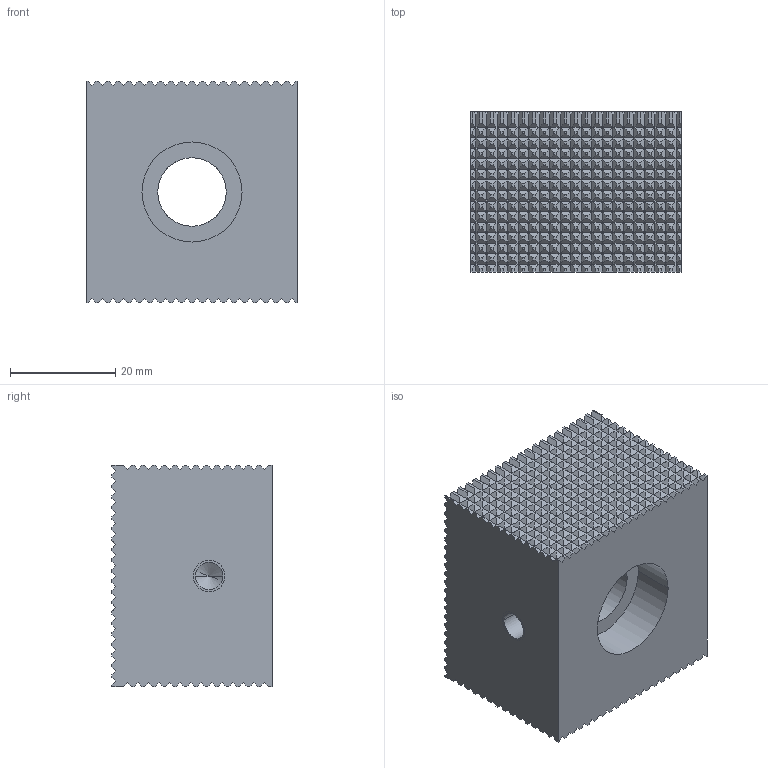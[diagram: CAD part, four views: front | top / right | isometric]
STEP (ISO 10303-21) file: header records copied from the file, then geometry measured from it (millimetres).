
FILE_DESCRIPTION((''),'2;1');
FILE_NAME('FG_VC_RAIL_R0002NP003','2026-03-29T10:48:18',('Admin'),(''),'CREO PARAMETRIC BY PTC INC, 2025010','CREO PARAMETRIC BY PTC INC, 2025010','');
FILE_SCHEMA(('CONFIG_CONTROL_DESIGN'));
Products named in the file (1): FG_VC_RAIL_R0002NP003
Bounding box: 40 x 30.5 x 42 mm (x, y, z)
Volume: 44095.4 mm3; surface area: 11425.8 mm2
Topology: 1 solids, 3 shells, 3150 faces, 6636 edges, 3488 vertices
Faces by surface type: plane 3134, cylinder 12, cone 4
Entity records: 78713 total; most frequent: CARTESIAN_POINT 13337, ORIENTED_EDGE 13256, DIRECTION 12946, EDGE_CURVE 6632, VECTOR 6568, LINE 6568, VERTEX_POINT 3488, AXIS2_PLACEMENT_3D 3189
